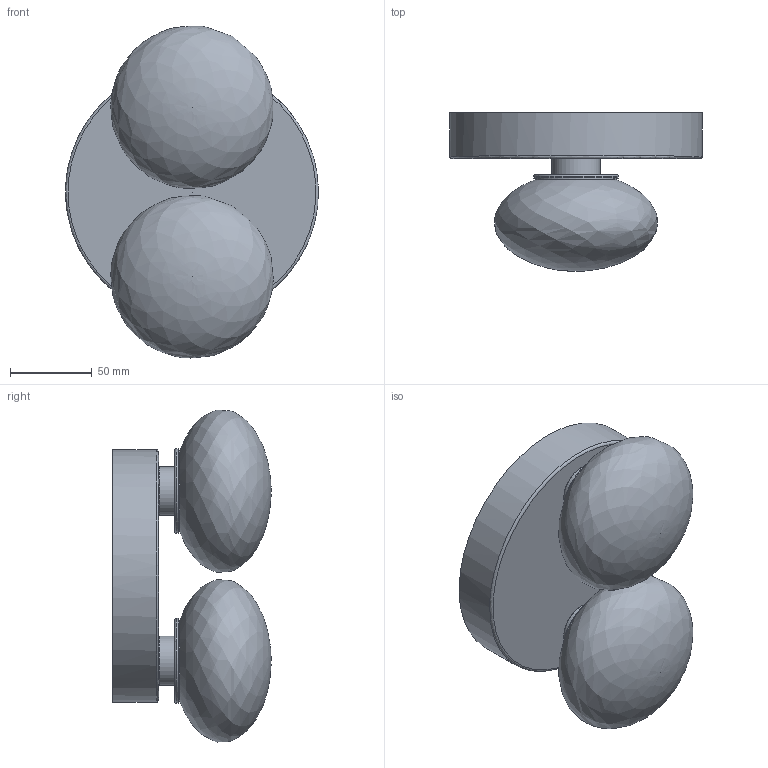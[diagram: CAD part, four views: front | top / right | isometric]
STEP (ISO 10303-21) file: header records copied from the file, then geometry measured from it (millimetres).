
FILE_DESCRIPTION(/* description */ (''),/* implementation_level */ '2;1');
FILE_NAME(/* name */ 'SkLO_Dot_Sconce_2_LTM03_3D',/* time_stamp */ '2024-10-21T10:29:56+02:00',/* author */ (''),/* organization */ (''),/* preprocessor_version */ 'ST-DEVELOPER v16.5',/* originating_system */ 'Rhino 7.34',/* authorisation */ '');
FILE_SCHEMA (('CONFIG_CONTROL_DESIGN'));
Length unit declared in the file: millimetre
Products named in the file (1): Document
Bounding box: 155 x 97.01 x 203.52 mm (x, y, z)
Volume: 249996.9 mm3; surface area: 187898.9 mm2
Topology: 16 solids, 16 shells, 144 faces, 335 edges, 210 vertices
Faces by surface type: plane 69, bspline 38, cylinder 37
Full cylindrical faces by diameter (mm): 25 x2, 26 x2, 26.613 x2, 27 x2, 27.877 x2, 30 x4, 36 x2, 44.5 x1, 50 x2, 52 x2, 152.6 x1, 155 x1
Entity records: 5941 total; most frequent: CARTESIAN_POINT 3725, ORIENTED_EDGE 642, EDGE_CURVE 321, VERTEX_POINT 208, EDGE_LOOP 173, ADVANCED_FACE 144, FACE_OUTER_BOUND 144, DIRECTION 112
